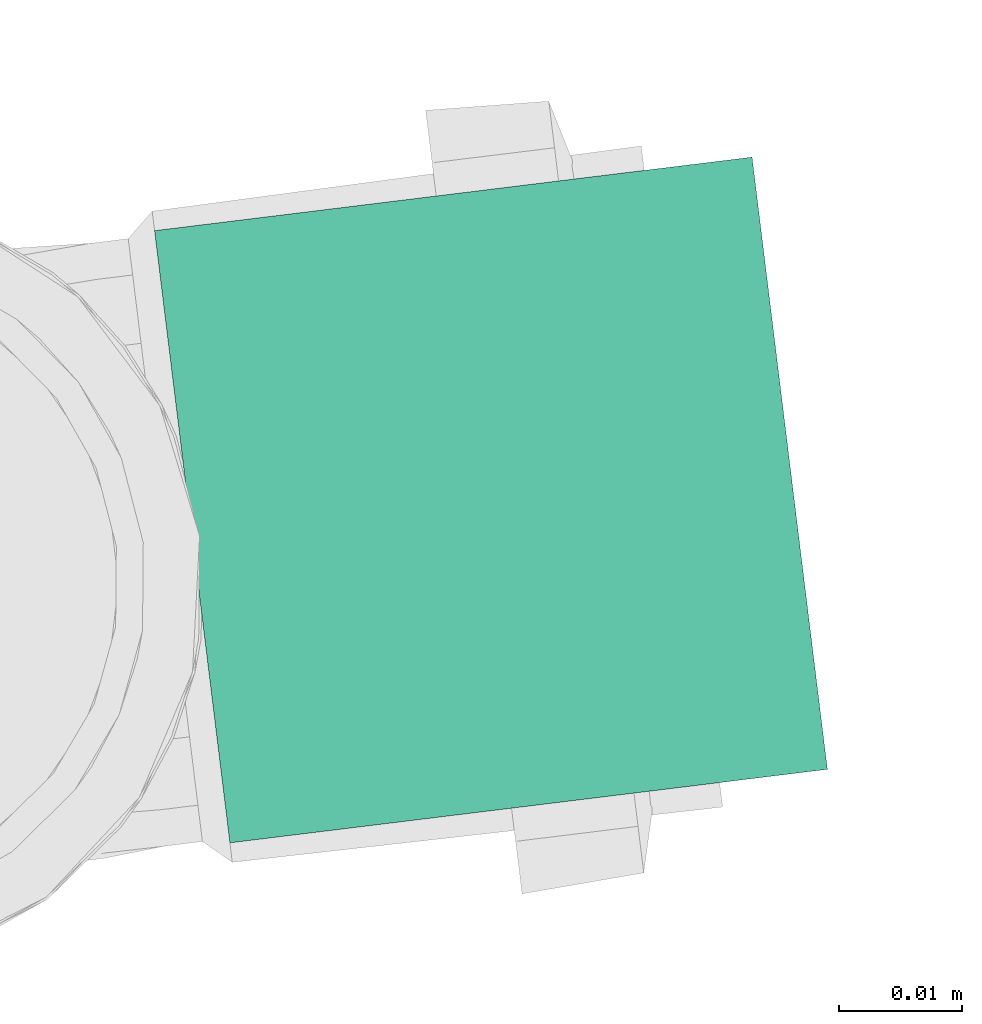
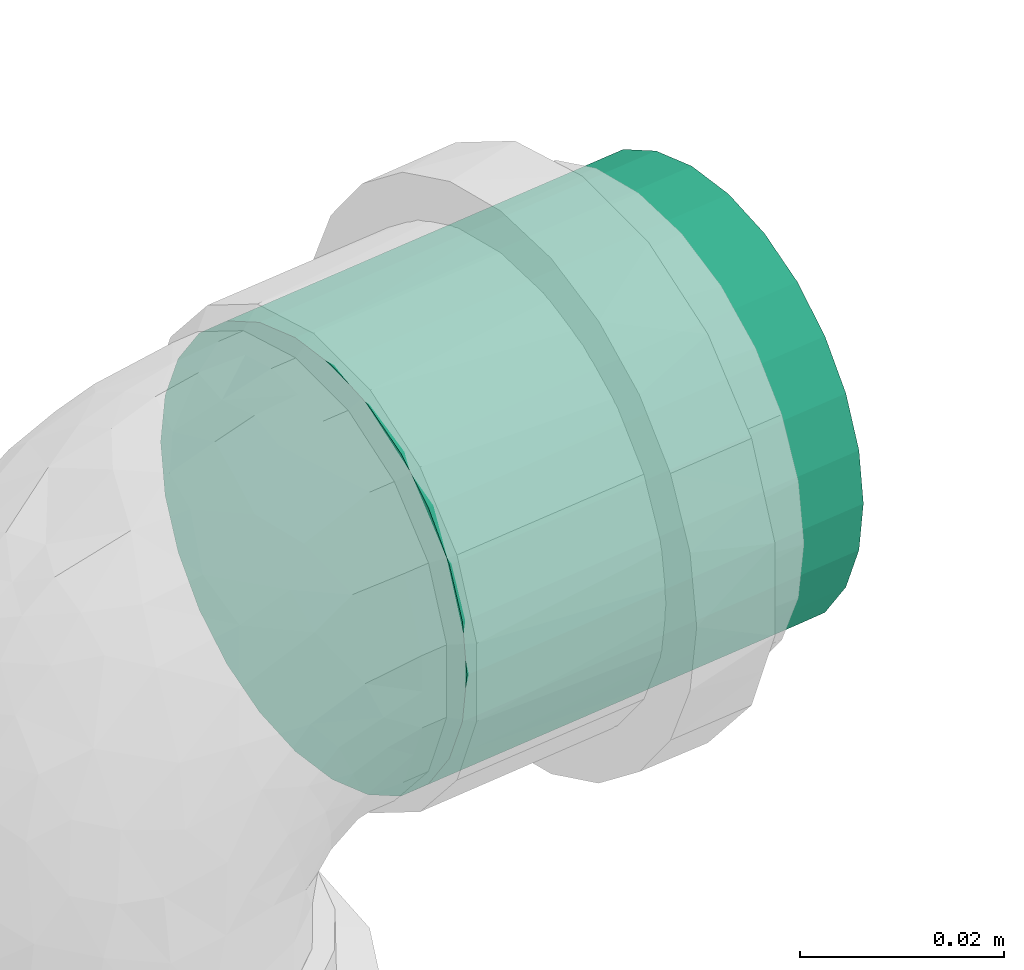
# One storey, part 89 of 97: 1 flow segment.
"""IFC2X3 building model written with IfcOpenShell, lengths in centimetres."""

from ifc_helpers import new_model, entity, si_unit, converted_unit, derived_unit, direction, frame, frame_2d, origin, place, context, subcontext, project, spatial, circle, extrude, type_object, element, save


model = new_model("IFC2X3")

# Units and contexts
model_context = context("Model", 3, precision=0.001, world=origin(), true_north=direction((6.12303176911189e-17, 1.0)))
body_context = subcontext(model_context, "Body", "Model", "MODEL_VIEW")
ifc_project = project(units=[si_unit("LENGTHUNIT", "METRE", prefix="CENTI"), si_unit("AREAUNIT", "SQUARE_METRE"), si_unit("VOLUMEUNIT", "CUBIC_METRE"), converted_unit("PLANEANGLEUNIT", "DEGREE", entity("IfcRatioMeasure", 0.0174532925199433), si_unit("PLANEANGLEUNIT", "RADIAN"), dimensions=[0, 0, 0, 0, 0, 0, 0]), si_unit("MASSUNIT", "GRAM", prefix="KILO"), derived_unit("MASSDENSITYUNIT", [(si_unit("MASSUNIT", "GRAM", prefix="KILO"), 1), (si_unit("LENGTHUNIT", "METRE"), -3)]), derived_unit("MOMENTOFINERTIAUNIT", [(si_unit("LENGTHUNIT", "METRE"), 4)]), si_unit("TIMEUNIT", "SECOND"), si_unit("FREQUENCYUNIT", "HERTZ"), si_unit("THERMODYNAMICTEMPERATUREUNIT", "DEGREE_CELSIUS"), derived_unit("THERMALTRANSMITTANCEUNIT", [(si_unit("MASSUNIT", "GRAM", prefix="KILO"), 1), (si_unit("THERMODYNAMICTEMPERATUREUNIT", "KELVIN"), -1), (si_unit("TIMEUNIT", "SECOND"), -3)]), derived_unit("VOLUMETRICFLOWRATEUNIT", [(si_unit("LENGTHUNIT", "METRE"), 3), (si_unit("TIMEUNIT", "SECOND"), -1)]), si_unit("ELECTRICCURRENTUNIT", "AMPERE"), si_unit("ELECTRICVOLTAGEUNIT", "VOLT"), si_unit("POWERUNIT", "WATT"), si_unit("FORCEUNIT", "NEWTON", prefix="KILO"), si_unit("ILLUMINANCEUNIT", "LUX"), si_unit("LUMINOUSFLUXUNIT", "LUMEN"), si_unit("LUMINOUSINTENSITYUNIT", "CANDELA"), derived_unit("USERDEFINED", [(si_unit("MASSUNIT", "GRAM", prefix="KILO"), -1), (si_unit("LENGTHUNIT", "METRE"), -2), (si_unit("TIMEUNIT", "SECOND"), 3), (si_unit("LUMINOUSFLUXUNIT", "LUMEN"), 1)]), derived_unit("LINEARVELOCITYUNIT", [(si_unit("LENGTHUNIT", "METRE"), 1), (si_unit("TIMEUNIT", "SECOND"), -1)]), si_unit("PRESSUREUNIT", "PASCAL"), derived_unit("USERDEFINED", [(si_unit("LENGTHUNIT", "METRE"), -2), (si_unit("MASSUNIT", "GRAM", prefix="KILO"), 1), (si_unit("TIMEUNIT", "SECOND"), -2)]), derived_unit("LINEARFORCEUNIT", [(si_unit("MASSUNIT", "GRAM", prefix="KILO"), 1), (si_unit("LENGTHUNIT", "METRE"), 1), (si_unit("TIMEUNIT", "SECOND"), -2), (si_unit("LENGTHUNIT", "METRE"), -1)]), derived_unit("PLANARFORCEUNIT", [(si_unit("MASSUNIT", "GRAM", prefix="KILO"), 1), (si_unit("LENGTHUNIT", "METRE"), 1), (si_unit("TIMEUNIT", "SECOND"), -2), (si_unit("LENGTHUNIT", "METRE"), -2)])], contexts=[model_context])

# Site, building, storey
site_placement = place(None, origin())
site = spatial("IfcSite", under=ifc_project, at=site_placement, Name="Default", CompositionType="ELEMENT")
building_placement = place(site_placement, origin())
building = spatial("IfcBuilding", under=site, at=building_placement, Name="HIDROSSANITÁRIO", CompositionType="ELEMENT")
storey_placement = place(building_placement, frame((0.0, 0.0, -260.0)))
storey = spatial("IfcBuildingStorey", under=building, at=storey_placement, Name="TÉRREO-HID", CompositionType="ELEMENT", Elevation=-260.0)

# Flow segment
pipe_segment_type = type_object("IfcPipeSegmentType", Name="Tipos de tubos:Tubo - Esgoto - Série Normal", PredefinedType="NOTDEFINED")
flow_segment_placement = place(storey_placement, origin())
element("IfcFlowSegment", 1, at=flow_segment_placement, inside=storey, type_object=pipe_segment_type, Name="Tipos de tubos:Tubo - Esgoto - Série Normal", ObjectType="Tipos de tubos:Tubo - Esgoto - Série Normal", context=body_context, shape_type="SweptSolid", body=[
    extrude(circle(Radius=2.5, at=frame_2d((1.32274846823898e-14, 0.0), x_axis=(1.0, 0.0))), frame((815.984814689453, 3194.38485487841, 50.0), z_axis=(0.99251135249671, 0.122152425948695, 0.0), x_axis=(-0.122152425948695, 0.99251135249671, 0.0)), (0.0, 0.0, 1.0), 4.87999999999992),
])

save(model, "model.ifc")
